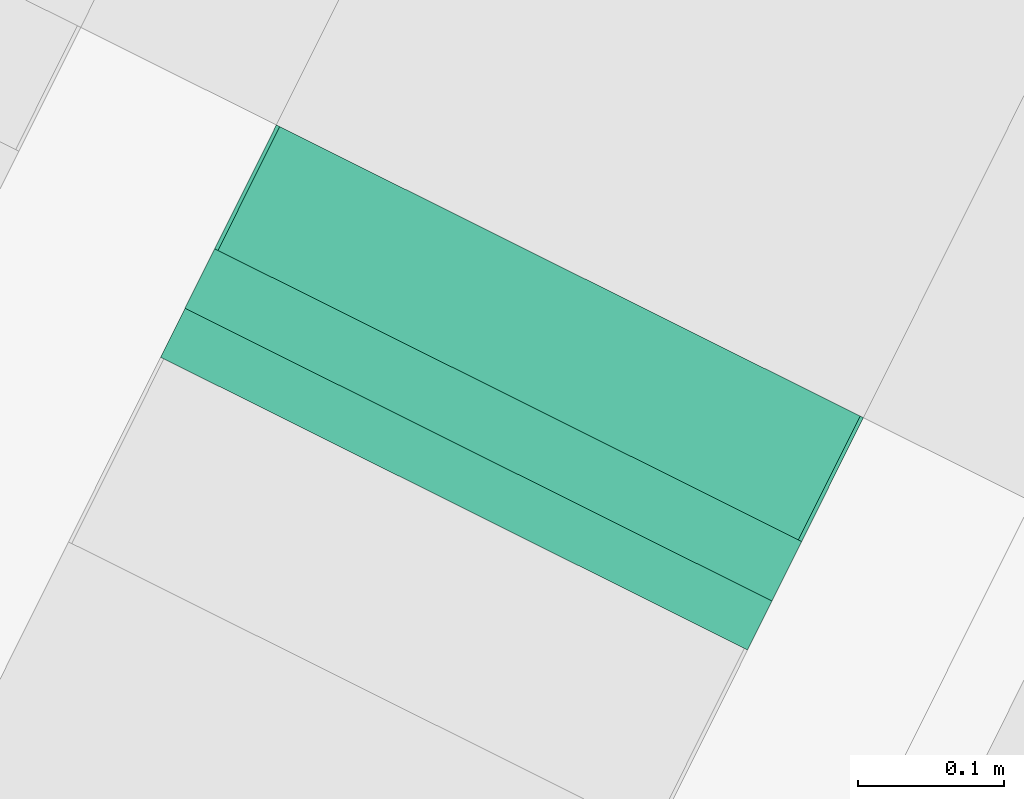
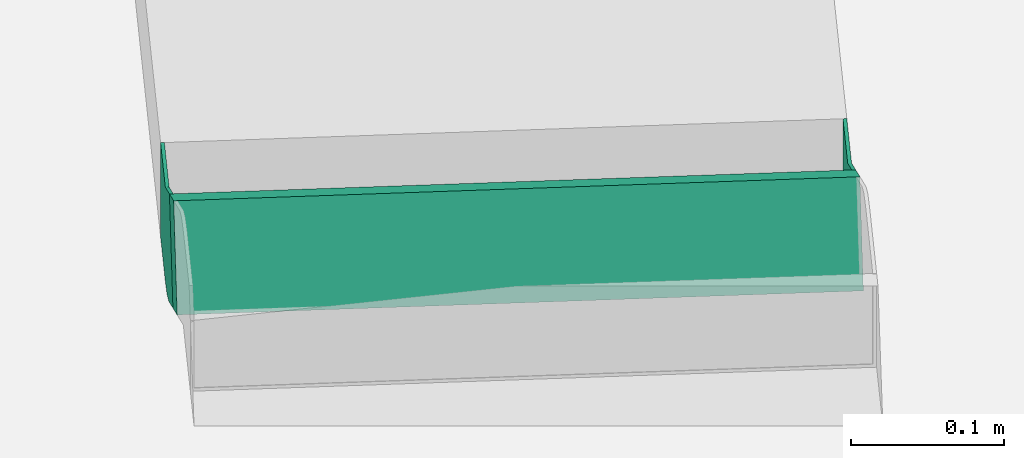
# One storey, part 26 of 47: 1 flow fitting, 1 flow segment.
"""IFC2X3 building model written with IfcOpenShell, lengths in metres."""

from ifc_helpers import new_model, entity, si_unit, converted_unit, derived_unit, direction, frame, frame_2d, origin, place, context, subcontext, project, spatial, rectangle, extrude, faceted_brep, source, transform, mapped, type_object, type_shapes, element, save


model = new_model("IFC2X3")

# Units and contexts
model_context = context("Model", 3, precision=1e-05, world=origin(), true_north=direction((0.894925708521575, 0.446215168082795)))
context_of_model = context(None, 3, precision=1e-05, world=origin(), true_north=direction((0.894925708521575, 0.446215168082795)))
body_context = subcontext(model_context, "Body", "Model", "MODEL_VIEW")
ifc_project = project(units=[si_unit("LENGTHUNIT", "METRE"), si_unit("AREAUNIT", "SQUARE_METRE"), si_unit("VOLUMEUNIT", "CUBIC_METRE"), converted_unit("PLANEANGLEUNIT", "DEGREE", entity("IfcRatioMeasure", 0.0174532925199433), si_unit("PLANEANGLEUNIT", "RADIAN"), dimensions=[0, 0, 0, 0, 0, 0, 0]), si_unit("MASSUNIT", "GRAM", prefix="KILO"), si_unit("TIMEUNIT", "SECOND"), si_unit("FREQUENCYUNIT", "HERTZ"), si_unit("THERMODYNAMICTEMPERATUREUNIT", "DEGREE_CELSIUS"), derived_unit("THERMALTRANSMITTANCEUNIT", [(si_unit("MASSUNIT", "GRAM", prefix="KILO"), 1), (si_unit("THERMODYNAMICTEMPERATUREUNIT", "KELVIN"), -1), (si_unit("TIMEUNIT", "SECOND"), -3)]), derived_unit("VOLUMETRICFLOWRATEUNIT", [(si_unit("LENGTHUNIT", "METRE"), 3), (si_unit("TIMEUNIT", "SECOND"), -1)]), si_unit("ELECTRICCURRENTUNIT", "AMPERE"), si_unit("ELECTRICVOLTAGEUNIT", "VOLT"), si_unit("POWERUNIT", "WATT"), si_unit("FORCEUNIT", "NEWTON", prefix="KILO"), si_unit("ILLUMINANCEUNIT", "LUX"), si_unit("LUMINOUSFLUXUNIT", "LUMEN"), si_unit("LUMINOUSINTENSITYUNIT", "CANDELA"), si_unit("PRESSUREUNIT", "PASCAL")], contexts=[model_context, context_of_model])

# Site, building, storey
site_placement = place(None, frame((218.228324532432, 584.720189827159, 0.0), z_axis=(0.0, 0.0, 1.0), x_axis=(0.446215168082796, 0.894925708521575, 0.0)))
site = spatial("IfcSite", under=ifc_project, at=site_placement, Name="Default", CompositionType="ELEMENT")
building_placement = place(site_placement, origin())
building = spatial("IfcBuilding", under=site, at=building_placement, CompositionType="ELEMENT")
storey_placement = place(building_placement, frame((0.0, 0.0, 4.69)))
storey = spatial("IfcBuildingStorey", under=building, at=storey_placement, Name="1 - Piano Primo", CompositionType="ELEMENT", Elevation=4.69)

# Flow segment
cable_carrier_segment_type = type_object("IfcCableCarrierSegmentType", Name="Passerella con raccordi:Passerella canale", PredefinedType="NOTDEFINED")
flow_segment_placement = place(storey_placement, frame((-13.3624177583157, -3.95107899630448, 2.82822448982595)))
element("IfcFlowSegment", 1, at=flow_segment_placement, inside=storey, type_object=cable_carrier_segment_type, Name="Passerella con raccordi:Passerella canale", ObjectType="Passerella con raccordi:Passerella canale", context=body_context, shape_type="SweptSolid", body=[
    extrude(rectangle(XDim=0.0749999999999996, YDim=0.0527002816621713, at=frame_2d((-2.70616862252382e-16, -4.64905891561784e-16), x_axis=(0.0, 1.0))), frame((0.0415698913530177, 0.0, 0.0456510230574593), z_axis=(0.0, 1.0, 0.0), x_axis=(-0.866025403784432, 0.0, 0.500000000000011)), (0.0, 0.0, 1.0), 0.45),
])

# Flow fitting
cable_carrier_fitting_type = type_object("IfcCableCarrierFittingType", Name="Standard", PredefinedType="NOTDEFINED")
shared_shape = source(origin(), body_context, "Body", "Brep", [
    faceted_brep([(-0.0608988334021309, -0.0374999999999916, -0.225000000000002), (-0.0608988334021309, -0.0374999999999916, -0.222460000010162), (-0.0608988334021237, 0.0349600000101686, -0.222460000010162), (-0.0608988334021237, 0.0349600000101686, 0.222460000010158), (-0.0608988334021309, -0.0374999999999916, 0.222460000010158), (-0.0608988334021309, -0.0374999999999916, 0.224999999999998), (-0.0608988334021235, 0.0375000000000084, 0.224999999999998), (-0.0608988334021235, 0.0375000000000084, -0.225000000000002), (0.0702199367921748, -0.000173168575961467, -0.222460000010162), (0.0339899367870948, -0.0629253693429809, -0.222460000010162), (0.0339899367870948, -0.0629253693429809, -0.225000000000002), (0.0714899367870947, 0.00202653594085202, -0.225000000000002), (0.0714899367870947, 0.00202653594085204, 0.224999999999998), (0.0339899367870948, -0.0629253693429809, 0.224999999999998), (0.0339899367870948, -0.0629253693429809, 0.222460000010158), (0.0702199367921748, -0.00017316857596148, 0.222460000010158), (-0.0108988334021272, -0.0374999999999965, 0.224999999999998), (-0.0100770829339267, -0.0376081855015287, 0.224999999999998), (-0.00931133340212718, -0.0379253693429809, 0.224999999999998), (0.0281886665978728, 0.027026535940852, 0.224999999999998), (0.00933434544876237, 0.0348362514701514, 0.224999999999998), (-0.0108988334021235, 0.0375000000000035, 0.224999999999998), (-0.0108988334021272, 0.0375000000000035, 0.0706376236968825), (-0.0108988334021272, 0.0375000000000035, -0.0837247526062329), (-0.0108988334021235, 0.0375000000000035, -0.225000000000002), (0.00933434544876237, 0.0348362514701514, -0.225000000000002), (0.0281886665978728, 0.027026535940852, -0.225000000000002), (-0.00931133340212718, -0.0379253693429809, -0.225000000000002), (-0.0100770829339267, -0.0376081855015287, -0.225000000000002), (-0.0108988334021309, -0.0374999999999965, -0.225000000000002), (-0.0108988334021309, -0.0374999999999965, -0.222460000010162), (-0.0108988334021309, -0.0374999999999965, 0.222460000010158), (-0.0100770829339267, -0.0376081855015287, -0.222460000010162), (-0.00931133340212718, -0.0379253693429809, -0.222460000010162), (0.0269186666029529, 0.0248268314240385, -0.222460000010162), (0.00867694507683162, 0.0323827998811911, -0.222460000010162), (-0.0108988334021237, 0.0349600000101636, -0.222460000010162), (-0.0108988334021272, 0.0349600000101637, -0.0812079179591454), (-0.0108988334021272, 0.0349600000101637, 0.0706260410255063), (-0.0108988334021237, 0.0349600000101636, 0.222460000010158), (0.00867694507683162, 0.0323827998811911, 0.222460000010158), (0.0269186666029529, 0.0248268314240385, 0.222460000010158), (-0.00931133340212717, -0.0379253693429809, 0.222460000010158), (-0.0100770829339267, -0.0376081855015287, 0.222460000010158), (0.0281886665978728, 0.027026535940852, -0.0837247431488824), (0.0281886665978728, 0.027026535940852, 0.0706376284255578), (0.00933434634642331, 0.0348362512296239, -0.00654356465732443), (0.0269186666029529, 0.0248268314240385, -0.0812079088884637), (0.0269186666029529, 0.0248268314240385, 0.0706260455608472), (0.00867694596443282, 0.0323827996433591, -0.00529093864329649)], [[[0, 1, 2, 3, 4, 5, 6, 7]], [[8, 9, 10, 11, 12, 13, 14, 15]], [[5, 16, 17, 18, 13, 12, 19, 20, 21, 6]], [[21, 22, 23, 24, 7, 6]], [[7, 24, 25, 26, 11, 10, 27, 28, 29, 0]], [[30, 1, 0, 29]], [[16, 5, 4, 31]], [[1, 30, 32, 33, 9, 8, 34, 35, 36, 2]], [[36, 37, 38, 39, 3, 2]], [[3, 39, 40, 41, 15, 14, 42, 43, 31, 4]], [[26, 25, 44]], [[45, 20, 19]], [[45, 44, 46]], [[22, 21, 20]], [[24, 23, 25]], [[23, 46, 25]], [[20, 46, 22]], [[44, 25, 46]], [[46, 20, 45]], [[22, 46, 23]], [[29, 28, 32, 30]], [[16, 31, 43, 17]], [[32, 28, 27, 33]], [[43, 42, 18, 17]], [[47, 35, 34]], [[41, 40, 48]], [[49, 47, 48]], [[40, 39, 38]], [[35, 37, 36]], [[35, 49, 37]], [[38, 49, 40]], [[49, 35, 47]], [[48, 40, 49]], [[37, 49, 38]], [[11, 26, 44, 45, 19, 12]], [[10, 9, 33, 27]], [[13, 18, 42, 14]], [[15, 41, 48, 47, 34, 8]]]),
])
type_shapes(cable_carrier_fitting_type, [shared_shape])
flow_fitting_placement = place(storey_placement, frame((-13.2452880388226, -3.72607899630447, 2.83025102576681), z_axis=(0.0, -1.0, 0.0), x_axis=(-1.0, 0.0, 0.0)))
element("IfcFlowFitting", 2, at=flow_fitting_placement, inside=storey, type_object=cable_carrier_fitting_type, Name="M_Curvatura interna verticale canale:Standard", ObjectType="Standard", context=body_context, shape_type="MappedRepresentation", body=[
    mapped(shared_shape, transform((0.0, 0.0, 0.0), scale=1.0)),
])

save(model, "model.ifc")
